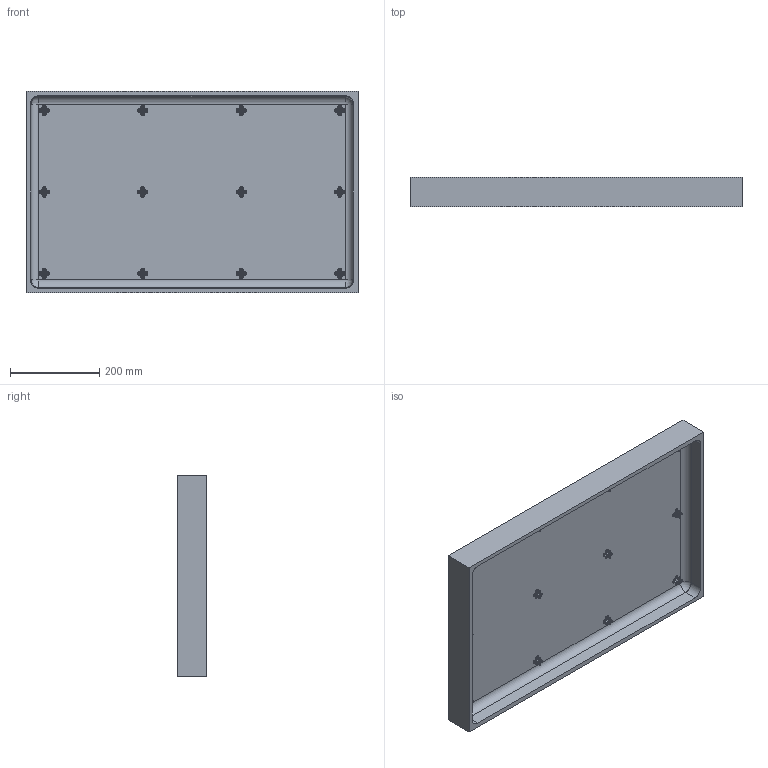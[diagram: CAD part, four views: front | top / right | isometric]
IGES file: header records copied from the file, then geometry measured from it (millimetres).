
Start section: SolidWorks IGES file using analytic representation for surfaces
Global section: file name: C:\temp\1670 WEBSITE FILES\1671 TOP.IGS; native system: SolidWorks 2016; preprocessor: SolidWorks 2016; author: mhakami; date: 160301.155529; units: inch
Bounding box: 744.21 x 66.04 x 451.1 mm (x, y, z)
Surface area: 1673846.3 mm2 (no closed solid volume)
Topology: 0 solids, 0 shells, 1818 faces, 14622 edges, 14514 vertices
Faces by surface type: bspline 1256, revolution 562
